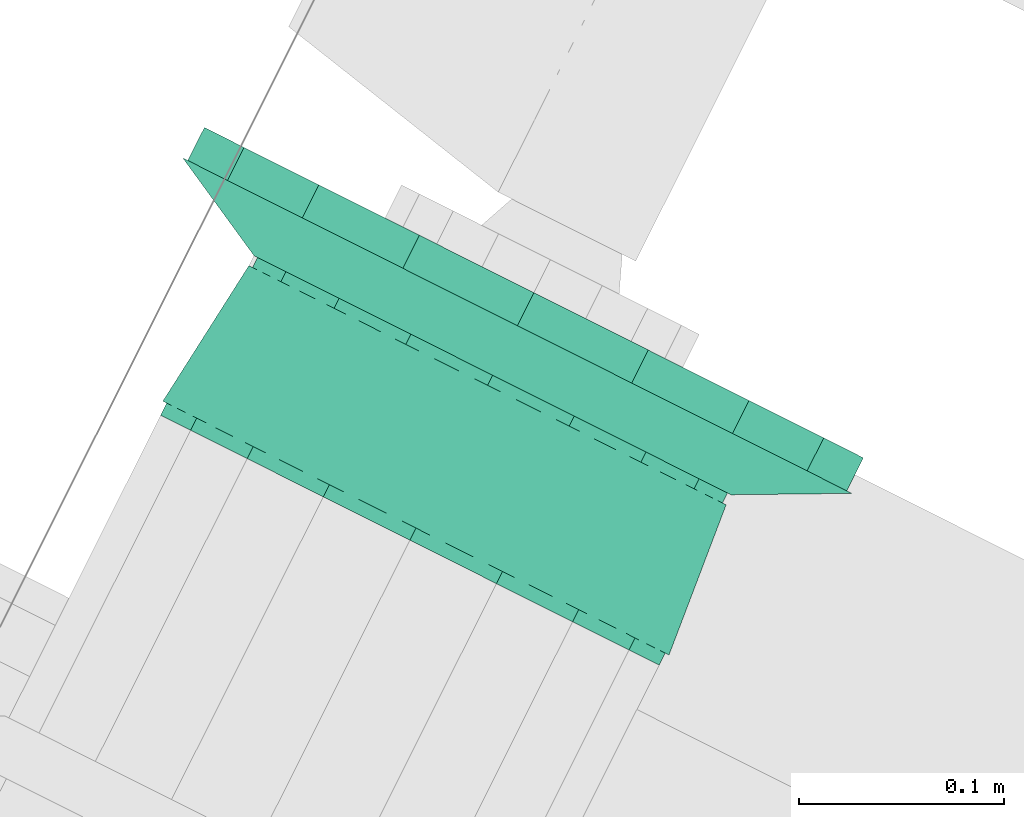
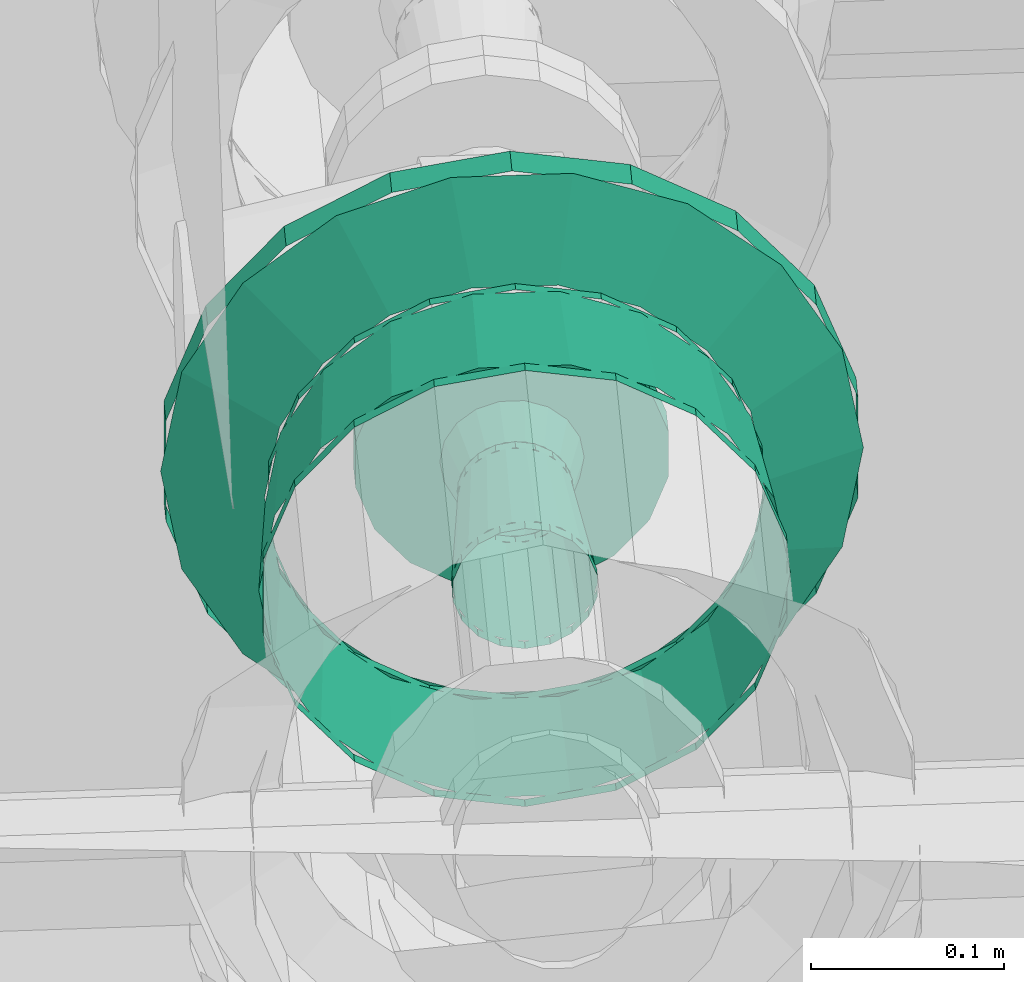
# One storey, part 145 of 206: 2 flow fittings.
"""IFC2X3 building model written with IfcOpenShell, lengths in metres."""

from ifc_helpers import new_model, si_unit, derived_unit, direction, frame, origin, place, context, subcontext, project, spatial, face_set, surface_model, source, transform, mapped, material, type_object, type_shapes, element, save


model = new_model("IFC2X3")

# Units and contexts
model_context = context("Model", 3, precision=5.2338327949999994e-05, world=origin(), true_north=direction((0.0, 1.0)))
body_context = subcontext(model_context, "Body", "Model", "MODEL_VIEW")
ifc_project = project(units=[si_unit("LENGTHUNIT", "METRE"), si_unit("AREAUNIT", "SQUARE_METRE"), si_unit("VOLUMEUNIT", "CUBIC_METRE"), si_unit("MASSUNIT", "GRAM", prefix="KILO"), si_unit("PLANEANGLEUNIT", "RADIAN"), derived_unit("THERMALTRANSMITTANCEUNIT", [(si_unit("MASSUNIT", "GRAM", prefix="KILO"), 1), (si_unit("THERMODYNAMICTEMPERATUREUNIT", "KELVIN"), -1), (si_unit("TIMEUNIT", "SECOND"), -3)])], contexts=[model_context])

# Site, building, storey
site_placement = place(None, frame((0.0, 0.0, 0.0), z_axis=(0.0, 0.0, 1.0), x_axis=(0.8939966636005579, -0.4480736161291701, 0.0)))
site = spatial("IfcSite", under=ifc_project, at=site_placement, Name="Default", CompositionType="ELEMENT")
building_placement = place(site_placement, origin())
building = spatial("IfcBuilding", under=site, at=building_placement, CompositionType="ELEMENT")
storey_placement = place(building_placement, origin())
storey = spatial("IfcBuildingStorey", under=building, at=storey_placement, Name="Erdgeschoss", CompositionType="ELEMENT", Elevation=0.0)

# Flow fittings
ifc_material = material(Name="IfcSurfaceStyle #1741")
distribution_element_type_1 = type_object("IfcDistributionElementType", Name="Flansch 329268:Flansch 329268", material=ifc_material)
shared_shape_1 = source(origin(), body_context, "Body", "SurfaceModel", [
    surface_model("IfcFaceBasedSurfaceModel", [(29.960127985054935, 9.152419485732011, 2.2315), (29.98834464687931, 9.152419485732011, 2.2364753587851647), (29.98834464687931, 9.13441948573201, 2.2364753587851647), (29.960127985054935, 9.13441948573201, 2.2315), (30.013157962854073, 9.152419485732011, 2.250801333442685), (30.013157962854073, 9.13441948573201, 2.250801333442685), (30.031575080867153, 9.152419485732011, 2.2727500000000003), (30.031575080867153, 9.13441948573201, 2.2727500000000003), (30.041374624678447, 9.152419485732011, 2.2996740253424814), (30.041374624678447, 9.13441948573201, 2.2996740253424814), (30.041374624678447, 9.152419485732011, 2.328325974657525), (30.041374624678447, 9.13441948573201, 2.328325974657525), (30.03157508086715, 9.152419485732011, 2.355250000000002), (30.03157508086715, 9.13441948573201, 2.355250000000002), (30.01315796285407, 9.152419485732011, 2.377198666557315), (30.01315796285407, 9.13441948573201, 2.377198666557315), (29.988344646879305, 9.152419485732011, 2.3915246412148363), (29.988344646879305, 9.13441948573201, 2.3915246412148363), (29.960127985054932, 9.152419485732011, 2.3965000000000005), (29.960127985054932, 9.13441948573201, 2.3965000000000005), (29.931911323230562, 9.152419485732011, 2.391524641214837), (29.931911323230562, 9.13441948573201, 2.391524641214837), (29.907098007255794, 9.152419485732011, 2.377198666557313), (29.907098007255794, 9.13441948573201, 2.377198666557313), (29.888680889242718, 9.152419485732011, 2.355249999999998), (29.888680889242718, 9.13441948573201, 2.355249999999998), (29.87888134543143, 9.152419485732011, 2.328325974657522), (29.87888134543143, 9.13441948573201, 2.328325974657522), (29.87888134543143, 9.152419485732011, 2.2996740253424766), (29.87888134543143, 9.13441948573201, 2.2996740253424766), (29.88868088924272, 9.152419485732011, 2.27275), (29.88868088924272, 9.13441948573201, 2.27275), (29.907098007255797, 9.152419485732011, 2.250801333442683), (29.907098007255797, 9.13441948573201, 2.250801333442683), (29.93191132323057, 9.152419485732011, 2.2364753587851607), (29.93191132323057, 9.13441948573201, 2.2364753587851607), (29.960127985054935, 9.13441948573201, 2.314), (29.92262798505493, 9.13441948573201, 2.3139999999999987), (29.92488951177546, 9.13441948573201, 2.3011742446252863), (29.931796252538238, 9.10741948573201, 2.3036880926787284), (29.929977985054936, 9.107419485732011, 2.3139999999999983), (29.931401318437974, 9.13441948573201, 2.2898954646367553), (29.9370317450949, 9.10741948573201, 2.294619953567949), (29.94137798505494, 9.13441948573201, 2.2815240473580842), (29.94505298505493, 9.10741948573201, 2.287889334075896), (29.953616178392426, 9.13441948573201, 2.2770697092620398), (29.954892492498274, 9.10741948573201, 2.2843080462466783), (29.966639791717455, 9.13441948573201, 2.2770697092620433), (29.965363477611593, 9.10741948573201, 2.28430804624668), (29.97887798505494, 9.13441948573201, 2.2815240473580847), (29.975202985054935, 9.10741948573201, 2.287889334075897), (29.988854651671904, 9.13441948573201, 2.2898954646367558), (29.98322422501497, 9.10741948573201, 2.2946199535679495), (29.995366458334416, 9.134419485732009, 2.301174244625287), (29.988459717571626, 9.107419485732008, 2.3036880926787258), (29.997627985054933, 9.13441948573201, 2.3140000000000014), (29.990277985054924, 9.107419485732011, 2.314), (29.995366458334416, 9.134419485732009, 2.3268257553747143), (29.988459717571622, 9.107419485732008, 2.3243119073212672), (29.988854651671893, 9.13441948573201, 2.338104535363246), (29.98322422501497, 9.107419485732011, 2.333380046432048), (29.97887798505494, 9.13441948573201, 2.3464759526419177), (29.975202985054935, 9.10741948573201, 2.340110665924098), (29.96663979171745, 9.13441948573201, 2.3509302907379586), (29.96536347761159, 9.10741948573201, 2.343691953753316), (29.953616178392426, 9.13441948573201, 2.3509302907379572), (29.95489249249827, 9.10741948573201, 2.343691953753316), (29.94137798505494, 9.13441948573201, 2.3464759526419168), (29.94505298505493, 9.10741948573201, 2.340110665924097), (29.931401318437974, 9.134419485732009, 2.3381045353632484), (29.9370317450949, 9.107419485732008, 2.33338004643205), (29.924889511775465, 9.13441948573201, 2.326825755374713), (29.931796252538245, 9.10741948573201, 2.3243119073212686), (29.960127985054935, 9.152419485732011, 2.131499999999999), (30.02254666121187, 9.152419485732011, 2.142506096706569), (30.02254666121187, 9.134419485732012, 2.142506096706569), (29.960127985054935, 9.13441948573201, 2.131499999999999), (30.077436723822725, 9.152419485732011, 2.174196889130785), (30.077436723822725, 9.134419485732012, 2.174196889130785), (30.11817762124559, 9.152419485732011, 2.2227500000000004), (30.11817762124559, 9.134419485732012, 2.2227500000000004), (30.13985539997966, 9.152419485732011, 2.282309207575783), (30.13985539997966, 9.134419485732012, 2.282309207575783), (30.13985539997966, 9.152419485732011, 2.345690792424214), (30.13985539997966, 9.134419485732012, 2.345690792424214), (30.118177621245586, 9.152419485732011, 2.4052500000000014), (30.118177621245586, 9.134419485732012, 2.4052500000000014), (30.077436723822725, 9.152419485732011, 2.4538031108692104), (30.077436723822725, 9.134419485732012, 2.4538031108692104), (30.022546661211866, 9.152419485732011, 2.485493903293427), (30.022546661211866, 9.134419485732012, 2.485493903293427), (29.960127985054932, 9.152419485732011, 2.496499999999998), (29.960127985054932, 9.134419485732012, 2.496499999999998), (29.89770930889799, 9.152419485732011, 2.485493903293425), (29.89770930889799, 9.134419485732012, 2.485493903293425), (29.84281924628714, 9.152419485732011, 2.4538031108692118), (29.84281924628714, 9.134419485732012, 2.4538031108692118), (29.802078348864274, 9.152419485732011, 2.405249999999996), (29.802078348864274, 9.134419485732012, 2.405249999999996), (29.7804005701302, 9.152419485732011, 2.3456907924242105), (29.7804005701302, 9.134419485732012, 2.3456907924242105), (29.7804005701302, 9.152419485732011, 2.282309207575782), (29.7804005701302, 9.134419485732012, 2.282309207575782), (29.802078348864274, 9.152419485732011, 2.222749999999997), (29.802078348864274, 9.134419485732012, 2.222749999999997), (29.84281924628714, 9.152419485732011, 2.174196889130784), (29.84281924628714, 9.134419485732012, 2.174196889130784), (29.897709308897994, 9.152419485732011, 2.142506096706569), (29.897709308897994, 9.134419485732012, 2.142506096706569), (29.777627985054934, 9.13441948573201, 2.3139999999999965), (29.788634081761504, 9.13441948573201, 2.251581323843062), (29.837826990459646, 9.107419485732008, 2.269486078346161), (29.82997798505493, 9.10741948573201, 2.3139999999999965), (29.820324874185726, 9.13441948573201, 2.1966912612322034), (29.860427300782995, 9.107419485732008, 2.2303411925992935), (29.868877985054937, 9.134419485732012, 2.155950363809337), (29.89505298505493, 9.10741948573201, 2.2012867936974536), (29.928437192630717, 9.134419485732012, 2.13427258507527), (29.937527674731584, 9.10741948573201, 2.1858272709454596), (29.991818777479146, 9.134419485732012, 2.1342725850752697), (29.98272829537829, 9.10741948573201, 2.18582727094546), (30.051377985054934, 9.134419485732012, 2.155950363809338), (30.025202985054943, 9.107419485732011, 2.2012867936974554), (30.09993109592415, 9.134419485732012, 2.196691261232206), (30.05982866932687, 9.10741948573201, 2.2303411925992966), (30.13162188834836, 9.13441948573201, 2.251581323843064), (30.082428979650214, 9.107419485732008, 2.2694860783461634), (30.14262798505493, 9.13441948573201, 2.314), (30.090277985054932, 9.107419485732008, 2.3139999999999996), (30.131621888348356, 9.13441948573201, 2.3764186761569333), (30.082428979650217, 9.107419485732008, 2.3585139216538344), (30.09993109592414, 9.134419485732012, 2.4313087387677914), (30.059828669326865, 9.107419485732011, 2.397658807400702), (30.051377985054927, 9.134419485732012, 2.472049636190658), (30.025202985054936, 9.10741948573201, 2.4267132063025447), (29.991818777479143, 9.134419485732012, 2.4937274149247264), (29.98272829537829, 9.10741948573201, 2.4421727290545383), (29.928437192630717, 9.134419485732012, 2.493727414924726), (29.937527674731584, 9.10741948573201, 2.4421727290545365), (29.868877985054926, 9.134419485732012, 2.4720496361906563), (29.89505298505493, 9.10741948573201, 2.4267132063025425), (29.82032487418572, 9.134419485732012, 2.4313087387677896), (29.860427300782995, 9.10741948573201, 2.3976588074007), (29.7886340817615, 9.134419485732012, 2.3764186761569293), (29.837826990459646, 9.107419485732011, 2.358513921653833)], [face_set([[[0, 1, 2, 3]], [[1, 4, 5, 2]], [[4, 6, 7, 5]], [[6, 8, 9, 7]], [[8, 10, 11, 9]], [[10, 12, 13, 11]], [[12, 14, 15, 13]], [[14, 16, 17, 15]], [[16, 18, 19, 17]], [[18, 20, 21, 19]], [[20, 22, 23, 21]], [[22, 24, 25, 23]], [[24, 26, 27, 25]], [[26, 28, 29, 27]], [[28, 30, 31, 29]], [[30, 32, 33, 31]], [[32, 34, 35, 33]], [[34, 0, 3, 35]], [[36, 35, 3]], [[36, 33, 35]], [[36, 31, 33]], [[36, 29, 31]], [[36, 27, 29]], [[36, 25, 27]], [[36, 23, 25]], [[36, 21, 23]], [[36, 19, 21]], [[36, 17, 19]], [[36, 15, 17]], [[36, 13, 15]], [[36, 11, 13]], [[36, 9, 11]], [[36, 7, 9]], [[36, 5, 7]], [[36, 2, 5]], [[36, 3, 2]], [[37, 38, 39, 40]], [[38, 41, 42, 39]], [[41, 43, 44, 42]], [[43, 45, 46, 44]], [[45, 47, 48, 46]], [[47, 49, 50, 48]], [[49, 51, 52, 50]], [[51, 53, 54, 52]], [[53, 55, 56, 54]], [[55, 57, 58, 56]], [[57, 59, 60, 58]], [[59, 61, 62, 60]], [[61, 63, 64, 62]], [[63, 65, 66, 64]], [[65, 67, 68, 66]], [[67, 69, 70, 68]], [[69, 71, 72, 70]], [[71, 37, 40, 72]], [[73, 74, 75, 76]], [[74, 77, 78, 75]], [[77, 79, 80, 78]], [[79, 81, 82, 80]], [[81, 83, 84, 82]], [[83, 85, 86, 84]], [[85, 87, 88, 86]], [[87, 89, 90, 88]], [[89, 91, 92, 90]], [[91, 93, 94, 92]], [[93, 95, 96, 94]], [[95, 97, 98, 96]], [[97, 99, 100, 98]], [[99, 101, 102, 100]], [[101, 103, 104, 102]], [[103, 105, 106, 104]], [[105, 107, 108, 106]], [[107, 73, 76, 108]], [[109, 110, 111, 112]], [[110, 113, 114, 111]], [[113, 115, 116, 114]], [[115, 117, 118, 116]], [[117, 119, 120, 118]], [[119, 121, 122, 120]], [[121, 123, 124, 122]], [[123, 125, 126, 124]], [[125, 127, 128, 126]], [[127, 129, 130, 128]], [[129, 131, 132, 130]], [[131, 133, 134, 132]], [[133, 135, 136, 134]], [[135, 137, 138, 136]], [[137, 139, 140, 138]], [[139, 141, 142, 140]], [[141, 143, 144, 142]], [[143, 109, 112, 144]]])]),
])
type_shapes(distribution_element_type_1, [shared_shape_1])
flow_fitting_1_placement = place(storey_placement, origin())
element("IfcFlowFitting", 1, at=flow_fitting_1_placement, inside=storey, type_object=distribution_element_type_1, material=ifc_material, Name="Flansch", ObjectType="Flansch", context=body_context, shape_type="MappedRepresentation", body=[
    mapped(shared_shape_1, transform((0.0, 0.0, 0.0), scale=1.0)),
])
distribution_element_type_2 = type_object("IfcDistributionElementType", Name="Übergangsstück 330081:Übergangsstück 330081", material=ifc_material)
shared_shape_2 = source(origin(), body_context, "Body", "SurfaceModel", [
    surface_model("IfcFaceBasedSurfaceModel", [(29.960127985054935, 9.107419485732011, 2.34415), (29.94981607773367, 9.107419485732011, 2.3423317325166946), (29.94981607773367, 9.101928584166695, 2.3423317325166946), (29.960127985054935, 9.101928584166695, 2.3441500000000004), (29.940747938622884, 9.107419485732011, 2.337096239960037), (29.940747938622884, 9.101928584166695, 2.337096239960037), (29.93401731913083, 9.107419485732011, 2.3290749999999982), (29.93401731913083, 9.101928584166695, 2.3290749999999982), (29.93043603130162, 9.107419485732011, 2.3192354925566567), (29.93043603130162, 9.101928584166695, 2.3192354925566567), (29.93043603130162, 9.107419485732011, 2.3087645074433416), (29.93043603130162, 9.101928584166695, 2.3087645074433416), (29.934017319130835, 9.107419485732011, 2.2989250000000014), (29.934017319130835, 9.101928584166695, 2.2989250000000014), (29.940747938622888, 9.107419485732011, 2.2909037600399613), (29.940747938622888, 9.101928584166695, 2.2909037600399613), (29.94981607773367, 9.107419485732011, 2.285668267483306), (29.94981607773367, 9.101928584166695, 2.285668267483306), (29.960127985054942, 9.107419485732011, 2.283850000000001), (29.960127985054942, 9.101928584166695, 2.283850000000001), (29.97043989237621, 9.107419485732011, 2.285668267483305), (29.97043989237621, 9.101928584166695, 2.285668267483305), (29.97950803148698, 9.107419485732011, 2.290903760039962), (29.97950803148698, 9.101928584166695, 2.290903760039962), (29.98623865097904, 9.107419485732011, 2.298925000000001), (29.98623865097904, 9.101928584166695, 2.298925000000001), (29.989819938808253, 9.107419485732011, 2.3087645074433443), (29.989819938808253, 9.101928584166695, 2.3087645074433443), (29.98981993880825, 9.107419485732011, 2.3192354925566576), (29.98981993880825, 9.101928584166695, 2.3192354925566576), (29.98623865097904, 9.107419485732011, 2.3290750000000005), (29.98623865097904, 9.101928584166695, 2.3290750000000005), (29.979508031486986, 9.107419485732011, 2.3370962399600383), (29.979508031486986, 9.101928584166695, 2.3370962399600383), (29.9704398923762, 9.107419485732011, 2.3423317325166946), (29.9704398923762, 9.101928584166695, 2.3423317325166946), (29.990277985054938, 9.101928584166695, 2.314000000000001), (29.98845971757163, 9.101928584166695, 2.3243119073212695), (29.995883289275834, 9.024034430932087, 2.3270138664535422), (29.998177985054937, 9.024034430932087, 2.314), (29.98322422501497, 9.101928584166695, 2.3333800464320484), (29.989275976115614, 9.024034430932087, 2.338458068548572), (29.975202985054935, 9.101928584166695, 2.3401106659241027), (29.979152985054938, 9.024034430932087, 2.3469522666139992), (29.965363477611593, 9.101928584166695, 2.343691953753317), (29.966735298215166, 9.024034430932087, 2.351471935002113), (29.95489249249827, 9.101928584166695, 2.3436919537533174), (29.95352067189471, 9.024034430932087, 2.3514719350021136), (29.945052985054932, 9.101928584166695, 2.340110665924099), (29.941102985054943, 9.024034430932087, 2.3469522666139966), (29.9370317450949, 9.101928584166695, 2.3333800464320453), (29.93097999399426, 9.024034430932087, 2.3384580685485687), (29.93179625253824, 9.101928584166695, 2.324311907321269), (29.924372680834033, 9.024034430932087, 2.3270138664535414), (29.929977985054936, 9.101928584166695, 2.3139999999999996), (29.922077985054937, 9.024034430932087, 2.313999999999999), (29.93179625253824, 9.101928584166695, 2.30368809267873), (29.92437268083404, 9.024034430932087, 2.3009861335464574), (29.9370317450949, 9.101928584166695, 2.294619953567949), (29.93097999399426, 9.024034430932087, 2.289541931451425), (29.94505298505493, 9.101928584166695, 2.2878893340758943), (29.941102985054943, 9.024034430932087, 2.281047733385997), (29.954892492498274, 9.101928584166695, 2.2843080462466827), (29.95352067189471, 9.024034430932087, 2.276528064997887), (29.965363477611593, 9.101928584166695, 2.2843080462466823), (29.966735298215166, 9.024034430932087, 2.2765280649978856), (29.975202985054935, 9.101928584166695, 2.2878893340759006), (29.97915298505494, 9.024034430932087, 2.2810477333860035), (29.98322422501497, 9.101928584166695, 2.294619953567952), (29.989275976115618, 9.024034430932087, 2.2895419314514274), (29.988459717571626, 9.101928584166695, 2.303688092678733), (29.995883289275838, 9.024034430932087, 2.3009861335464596), (29.960127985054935, 9.024034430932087, 2.3520500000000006), (29.947114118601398, 9.024034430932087, 2.3497553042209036), (29.947114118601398, 9.017419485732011, 2.3497553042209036), (29.960127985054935, 9.017419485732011, 2.3520500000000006), (29.935669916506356, 9.024034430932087, 2.3431479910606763), (29.935669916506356, 9.017419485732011, 2.3431479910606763), (29.92717571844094, 9.024034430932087, 2.3330249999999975), (29.92717571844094, 9.017419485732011, 2.3330249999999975), (29.922656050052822, 9.024034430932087, 2.320607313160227), (29.922656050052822, 9.017419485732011, 2.320607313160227), (29.922656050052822, 9.024034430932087, 2.3073926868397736), (29.922656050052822, 9.017419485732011, 2.3073926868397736), (29.92717571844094, 9.024034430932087, 2.294975), (29.92717571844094, 9.017419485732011, 2.294975), (29.93566991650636, 9.024034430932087, 2.2848520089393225), (29.93566991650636, 9.017419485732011, 2.2848520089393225), (29.947114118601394, 9.024034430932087, 2.2782446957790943), (29.947114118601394, 9.017419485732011, 2.2782446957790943), (29.960127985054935, 9.024034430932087, 2.2759500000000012), (29.960127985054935, 9.017419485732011, 2.2759500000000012), (29.97314185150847, 9.024034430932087, 2.278244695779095), (29.97314185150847, 9.017419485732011, 2.278244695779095), (29.984586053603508, 9.024034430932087, 2.284852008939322), (29.984586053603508, 9.017419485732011, 2.284852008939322), (29.993080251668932, 9.024034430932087, 2.294974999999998), (29.993080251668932, 9.017419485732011, 2.294974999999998), (29.997599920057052, 9.024034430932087, 2.307392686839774), (29.997599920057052, 9.017419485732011, 2.307392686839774), (29.997599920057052, 9.024034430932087, 2.3206073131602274), (29.997599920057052, 9.017419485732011, 2.3206073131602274), (29.99308025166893, 9.024034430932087, 2.3330250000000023), (29.99308025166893, 9.017419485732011, 2.3330250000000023), (29.984586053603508, 9.024034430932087, 2.343147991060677), (29.984586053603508, 9.017419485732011, 2.343147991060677), (29.973141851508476, 9.024034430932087, 2.349755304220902), (29.973141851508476, 9.017419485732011, 2.349755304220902), (29.960127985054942, 9.107419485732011, 2.44415), (29.9156140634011, 9.107419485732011, 2.4363009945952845), (29.9156140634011, 9.101928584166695, 2.4363009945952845), (29.960127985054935, 9.101928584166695, 2.444149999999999), (29.876469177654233, 9.107419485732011, 2.4137006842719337), (29.876469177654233, 9.101928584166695, 2.4137006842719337), (29.84741477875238, 9.107419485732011, 2.379074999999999), (29.84741477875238, 9.101928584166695, 2.379074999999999), (29.8319552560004, 9.107419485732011, 2.3366003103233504), (29.8319552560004, 9.101928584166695, 2.3366003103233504), (29.83195525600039, 9.107419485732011, 2.2913996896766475), (29.83195525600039, 9.101928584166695, 2.2913996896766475), (29.84741477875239, 9.107419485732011, 2.2489249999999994), (29.84741477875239, 9.101928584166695, 2.2489249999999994), (29.876469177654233, 9.107419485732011, 2.2142993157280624), (29.876469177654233, 9.101928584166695, 2.2142993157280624), (29.9156140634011, 9.107419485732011, 2.191699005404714), (29.9156140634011, 9.101928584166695, 2.191699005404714), (29.960127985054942, 9.107419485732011, 2.1838500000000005), (29.960127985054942, 9.101928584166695, 2.1838500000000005), (30.004641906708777, 9.107419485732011, 2.191699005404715), (30.004641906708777, 9.101928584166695, 2.191699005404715), (30.043786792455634, 9.107419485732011, 2.2142993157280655), (30.043786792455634, 9.101928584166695, 2.2142993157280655), (30.072841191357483, 9.107419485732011, 2.2489250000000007), (30.072841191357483, 9.101928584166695, 2.2489250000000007), (30.088300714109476, 9.107419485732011, 2.2913996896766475), (30.088300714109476, 9.101928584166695, 2.2913996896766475), (30.088300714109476, 9.107419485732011, 2.3366003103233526), (30.088300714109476, 9.101928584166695, 2.3366003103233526), (30.072841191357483, 9.107419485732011, 2.3790750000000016), (30.072841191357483, 9.101928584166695, 2.3790750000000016), (30.04378679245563, 9.107419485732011, 2.413700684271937), (30.04378679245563, 9.101928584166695, 2.413700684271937), (30.004641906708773, 9.107419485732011, 2.436300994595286), (30.004641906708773, 9.101928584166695, 2.436300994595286), (30.090277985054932, 9.101928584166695, 2.3140000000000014), (30.082428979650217, 9.101928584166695, 2.3585139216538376), (30.08985255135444, 9.024034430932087, 2.361215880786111), (30.09817798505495, 9.024034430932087, 2.3140000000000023), (30.059828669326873, 9.101928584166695, 2.397658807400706), (30.065880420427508, 9.024034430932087, 2.4027368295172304), (30.025202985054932, 9.101928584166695, 2.4267132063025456), (30.02915298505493, 9.024034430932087, 2.4335548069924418), (29.982728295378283, 9.101928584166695, 2.4421727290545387), (29.98410011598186, 9.024034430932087, 2.4499527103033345), (29.937527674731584, 9.101928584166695, 2.442172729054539), (29.936155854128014, 9.024034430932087, 2.449952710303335), (29.89505298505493, 9.101928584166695, 2.4267132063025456), (29.891102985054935, 9.024034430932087, 2.4335548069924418), (29.860427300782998, 9.101928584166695, 2.397658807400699), (29.854375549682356, 9.024034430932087, 2.4027368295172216), (29.837826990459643, 9.101928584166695, 2.358513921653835), (29.83040341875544, 9.024034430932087, 2.3612158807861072), (29.82997798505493, 9.101928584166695, 2.313999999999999), (29.822077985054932, 9.024034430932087, 2.3139999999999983), (29.837826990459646, 9.101928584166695, 2.2694860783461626), (29.830403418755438, 9.024034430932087, 2.26678411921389), (29.860427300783, 9.101928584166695, 2.230341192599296), (29.854375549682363, 9.024034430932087, 2.2252631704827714), (29.89505298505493, 9.101928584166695, 2.201286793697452), (29.891102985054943, 9.024034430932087, 2.1944451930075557), (29.937527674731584, 9.101928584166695, 2.185827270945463), (29.936155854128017, 9.024034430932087, 2.178047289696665), (29.98272829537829, 9.101928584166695, 2.1858272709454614), (29.984100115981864, 9.024034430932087, 2.1780472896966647), (30.025202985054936, 9.101928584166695, 2.2012867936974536), (30.029152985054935, 9.024034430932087, 2.1944451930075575), (30.059828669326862, 9.101928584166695, 2.2303411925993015), (30.06588042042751, 9.024034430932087, 2.225263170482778), (30.082428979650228, 9.101928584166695, 2.269486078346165), (30.08985255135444, 9.024034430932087, 2.266784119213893), (29.960127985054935, 9.024034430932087, 2.452050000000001), (29.91291210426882, 9.024034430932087, 2.4437245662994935), (29.91291210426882, 9.017419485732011, 2.4437245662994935), (29.960127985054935, 9.017419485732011, 2.452050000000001), (29.871391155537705, 9.024034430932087, 2.419752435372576), (29.871391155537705, 9.017419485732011, 2.419752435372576), (29.840573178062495, 9.024034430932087, 2.383024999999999), (29.840573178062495, 9.017419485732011, 2.383024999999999), (29.824175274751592, 9.024034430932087, 2.337972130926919), (29.824175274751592, 9.017419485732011, 2.337972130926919), (29.8241752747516, 9.024034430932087, 2.290027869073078), (29.8241752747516, 9.017419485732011, 2.290027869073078), (29.8405731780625, 9.024034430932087, 2.2449750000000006), (29.8405731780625, 9.017419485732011, 2.2449750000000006), (29.871391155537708, 9.024034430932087, 2.2082475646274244), (29.871391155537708, 9.017419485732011, 2.2082475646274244), (29.912912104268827, 9.024034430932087, 2.1842754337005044), (29.912912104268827, 9.017419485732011, 2.1842754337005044), (29.960127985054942, 9.024034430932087, 2.1759500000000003), (29.960127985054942, 9.017419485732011, 2.1759500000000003), (30.007343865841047, 9.024034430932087, 2.184275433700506), (30.007343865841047, 9.017419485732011, 2.184275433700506), (30.048864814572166, 9.024034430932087, 2.2082475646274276), (30.048864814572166, 9.017419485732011, 2.2082475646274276), (30.079682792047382, 9.024034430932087, 2.2449749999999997), (30.079682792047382, 9.017419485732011, 2.2449749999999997), (30.096080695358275, 9.024034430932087, 2.290027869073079), (30.096080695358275, 9.017419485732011, 2.290027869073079), (30.096080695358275, 9.024034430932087, 2.3379721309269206), (30.096080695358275, 9.017419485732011, 2.3379721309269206), (30.07968279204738, 9.024034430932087, 2.3830250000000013), (30.07968279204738, 9.017419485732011, 2.3830250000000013), (30.04886481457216, 9.024034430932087, 2.4197524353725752), (30.04886481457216, 9.017419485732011, 2.4197524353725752), (30.007343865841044, 9.024034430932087, 2.4437245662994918), (30.007343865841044, 9.017419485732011, 2.4437245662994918)], [face_set([[[0, 1, 2, 3]], [[1, 4, 5, 2]], [[4, 6, 7, 5]], [[6, 8, 9, 7]], [[8, 10, 11, 9]], [[10, 12, 13, 11]], [[12, 14, 15, 13]], [[14, 16, 17, 15]], [[16, 18, 19, 17]], [[18, 20, 21, 19]], [[20, 22, 23, 21]], [[22, 24, 25, 23]], [[24, 26, 27, 25]], [[26, 28, 29, 27]], [[28, 30, 31, 29]], [[30, 32, 33, 31]], [[32, 34, 35, 33]], [[34, 0, 3, 35]], [[36, 37, 38, 39]], [[37, 40, 41, 38]], [[40, 42, 43, 41]], [[42, 44, 45, 43]], [[44, 46, 47, 45]], [[46, 48, 49, 47]], [[48, 50, 51, 49]], [[50, 52, 53, 51]], [[52, 54, 55, 53]], [[54, 56, 57, 55]], [[56, 58, 59, 57]], [[58, 60, 61, 59]], [[60, 62, 63, 61]], [[62, 64, 65, 63]], [[64, 66, 67, 65]], [[66, 68, 69, 67]], [[68, 70, 71, 69]], [[70, 36, 39, 71]], [[72, 73, 74, 75]], [[73, 76, 77, 74]], [[76, 78, 79, 77]], [[78, 80, 81, 79]], [[80, 82, 83, 81]], [[82, 84, 85, 83]], [[84, 86, 87, 85]], [[86, 88, 89, 87]], [[88, 90, 91, 89]], [[90, 92, 93, 91]], [[92, 94, 95, 93]], [[94, 96, 97, 95]], [[96, 98, 99, 97]], [[98, 100, 101, 99]], [[100, 102, 103, 101]], [[102, 104, 105, 103]], [[104, 106, 107, 105]], [[106, 72, 75, 107]], [[108, 109, 110, 111]], [[109, 112, 113, 110]], [[112, 114, 115, 113]], [[114, 116, 117, 115]], [[116, 118, 119, 117]], [[118, 120, 121, 119]], [[120, 122, 123, 121]], [[122, 124, 125, 123]], [[124, 126, 127, 125]], [[126, 128, 129, 127]], [[128, 130, 131, 129]], [[130, 132, 133, 131]], [[132, 134, 135, 133]], [[134, 136, 137, 135]], [[136, 138, 139, 137]], [[138, 140, 141, 139]], [[140, 142, 143, 141]], [[142, 108, 111, 143]], [[144, 145, 146, 147]], [[145, 148, 149, 146]], [[148, 150, 151, 149]], [[150, 152, 153, 151]], [[152, 154, 155, 153]], [[154, 156, 157, 155]], [[156, 158, 159, 157]], [[158, 160, 161, 159]], [[160, 162, 163, 161]], [[162, 164, 165, 163]], [[164, 166, 167, 165]], [[166, 168, 169, 167]], [[168, 170, 171, 169]], [[170, 172, 173, 171]], [[172, 174, 175, 173]], [[174, 176, 177, 175]], [[176, 178, 179, 177]], [[178, 144, 147, 179]], [[180, 181, 182, 183]], [[181, 184, 185, 182]], [[184, 186, 187, 185]], [[186, 188, 189, 187]], [[188, 190, 191, 189]], [[190, 192, 193, 191]], [[192, 194, 195, 193]], [[194, 196, 197, 195]], [[196, 198, 199, 197]], [[198, 200, 201, 199]], [[200, 202, 203, 201]], [[202, 204, 205, 203]], [[204, 206, 207, 205]], [[206, 208, 209, 207]], [[208, 210, 211, 209]], [[210, 212, 213, 211]], [[212, 214, 215, 213]], [[214, 180, 183, 215]]])]),
])
type_shapes(distribution_element_type_2, [shared_shape_2])
flow_fitting_2_placement = place(storey_placement, origin())
element("IfcFlowFitting", 2, at=flow_fitting_2_placement, inside=storey, type_object=distribution_element_type_2, material=ifc_material, Name="Übergangsstück", ObjectType="Übergangsstück", context=body_context, shape_type="MappedRepresentation", body=[
    mapped(shared_shape_2, transform((0.0, 0.0, 0.0), scale=1.0)),
])

save(model, "model.ifc")
